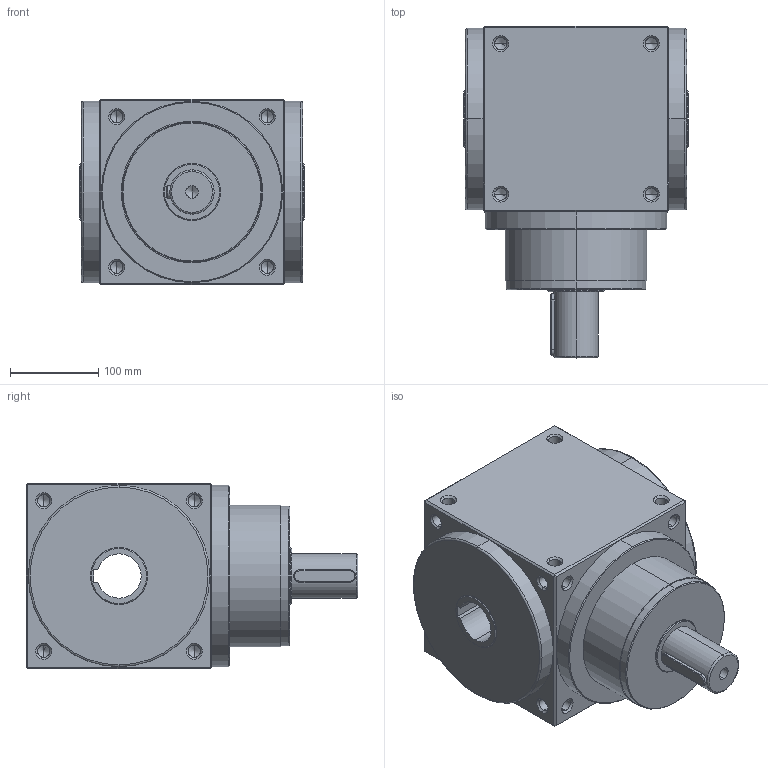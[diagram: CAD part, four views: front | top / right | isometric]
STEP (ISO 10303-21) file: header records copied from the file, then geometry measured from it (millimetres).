
FILE_DESCRIPTION (( 'STEP AP214' ), '1' );
FILE_NAME ('AT210-L1-001.STEP', '2020-11-19T01:02:31', ( '微软用户' ), ( '微软中国' ), 'SwSTEP 2.0', 'SolidWorks 2014', '' );
FILE_SCHEMA (( 'AUTOMOTIVE_DESIGN' ));
Length unit declared in the file: millimetre
Products named in the file (2): AT210-L1-001
Bounding box: 254 x 375 x 210 mm (x, y, z)
Volume: 12130557.6 mm3; surface area: 411943.7 mm2
Topology: 1 solids, 1 shells, 280 faces, 752 edges, 427 vertices
Faces by surface type: cylinder 121, cone 110, plane 43, torus 6
Entity records: 11481 total; most frequent: CARTESIAN_POINT 1981, ORIENTED_EDGE 1404, DIRECTION 1346, EDGE_CURVE 702, AXIS2_PLACEMENT_3D 524, VERTEX_POINT 427, EDGE_LOOP 317, VECTOR 298
